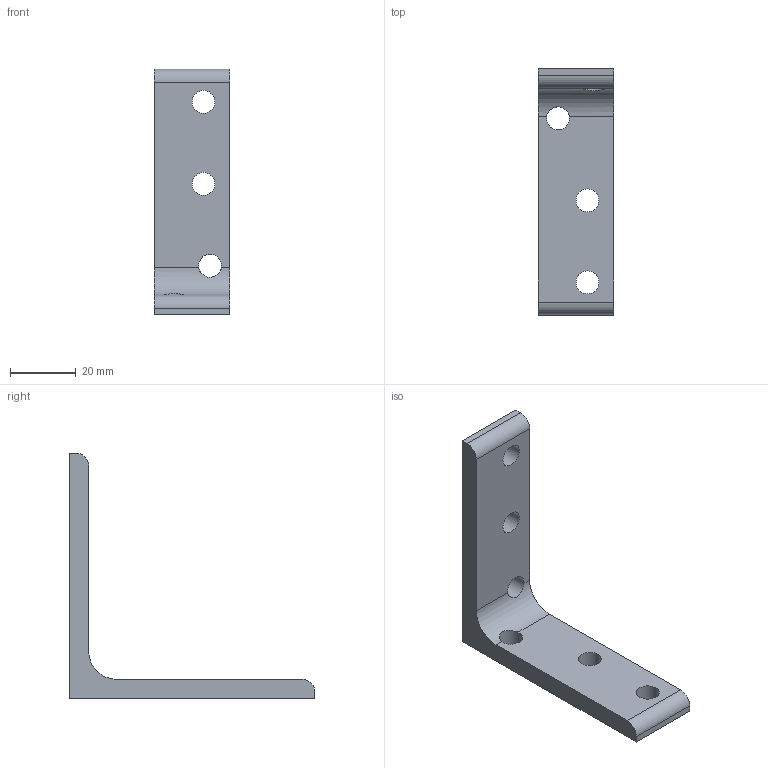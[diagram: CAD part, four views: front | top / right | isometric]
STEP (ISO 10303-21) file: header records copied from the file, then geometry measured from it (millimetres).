
FILE_DESCRIPTION(/* description */ ('Unknown'),/* implementation_level */ '2;1');
FILE_NAME(/* name */ 'TL2575',/* time_stamp */ '2026-09-29T14:25:14+08:00',/* author */ ('Unknown'),/* organization */ ('Unknown'),/* preprocessor_version */ 'ST-DEVELOPER v16.7',/* originating_system */ 'DEX',/* authorisation */ $);
FILE_SCHEMA (('AUTOMOTIVE_DESIGN {1 0 10303 214 3 1 1}'));
Length unit declared in the file: millimetre
Products named in the file (1): TL2575
Bounding box: 23 x 75 x 75 mm (x, y, z)
Volume: 18680.9 mm3; surface area: 8817.3 mm2
Topology: 1 solids, 1 shells, 17 faces, 55 edges, 38 vertices
Faces by surface type: cylinder 9, plane 8
Full cylindrical faces by diameter (mm): 7 x6
Entity records: 597 total; most frequent: CARTESIAN_POINT 105, DIRECTION 95, ORIENTED_EDGE 86, EDGE_CURVE 43, AXIS2_PLACEMENT_3D 36, EDGE_LOOP 33, FACE_BOUND 33, VERTEX_POINT 32
